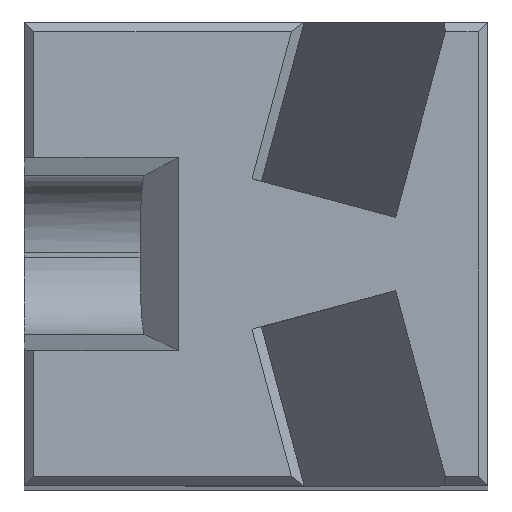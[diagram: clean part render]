
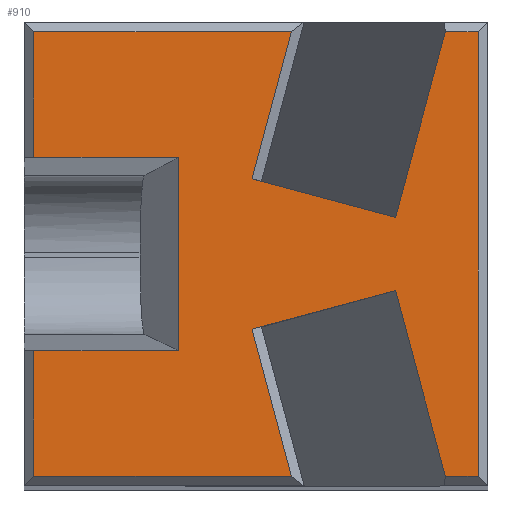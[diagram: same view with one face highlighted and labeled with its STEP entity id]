
A CAD part, top view. The second image highlights one B-rep face of the part: STEP entity #910.
In plain terms, the highlighted planar face has unit normal (0, 0, 1).
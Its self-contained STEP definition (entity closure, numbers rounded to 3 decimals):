
#12 = VECTOR ( 'NONE', #1151, 1000. ) ;
#20 = ORIENTED_EDGE ( 'NONE', *, *, #981, .T. ) ;
#30 = EDGE_CURVE ( 'NONE', #1072, #747, #997, .T. ) ;
#32 = CARTESIAN_POINT ( 'NONE',  ( 0.25, 0., 60. ) ) ;
#37 = DIRECTION ( 'NONE',  ( 0., 0., -1. ) ) ;
#39 = DIRECTION ( 'NONE',  ( 0., -1., 0. ) ) ;
#47 = CARTESIAN_POINT ( 'NONE',  ( 0., 0., 60. ) ) ;
#57 = DIRECTION ( 'NONE',  ( 0.966, 0.259, 0. ) ) ;
#58 = ORIENTED_EDGE ( 'NONE', *, *, #30, .F. ) ;
#81 = DIRECTION ( 'NONE',  ( -0.259, 0.966, 0. ) ) ;
#82 = VECTOR ( 'NONE', #785, 1000. ) ;
#87 = LINE ( 'NONE', #1162, #1116 ) ;
#106 = CARTESIAN_POINT ( 'NONE',  ( 11.75, 0., 60. ) ) ;
#114 = CARTESIAN_POINT ( 'NONE',  ( 0., 11.75, 60. ) ) ;
#116 = LINE ( 'NONE', #257, #646 ) ;
#123 = VECTOR ( 'NONE', #862, 1000. ) ;
#124 = DIRECTION ( 'NONE',  ( 0.259, 0.966, 0. ) ) ;
#128 = LINE ( 'NONE', #853, #819 ) ;
#133 = VERTEX_POINT ( 'NONE', #481 ) ;
#138 = DIRECTION ( 'NONE',  ( -1., 0., 0. ) ) ;
#145 = CARTESIAN_POINT ( 'NONE',  ( 5.898, 4.059, 60. ) ) ;
#163 = VECTOR ( 'NONE', #138, 1000. ) ;
#168 = DIRECTION ( 'NONE',  ( 0., 1., 0. ) ) ;
#177 = VERTEX_POINT ( 'NONE', #826 ) ;
#180 = DIRECTION ( 'NONE',  ( 0.259, -0.966, 0. ) ) ;
#181 = VERTEX_POINT ( 'NONE', #387 ) ;
#186 = LINE ( 'NONE', #429, #82 ) ;
#219 = VERTEX_POINT ( 'NONE', #741 ) ;
#226 = LINE ( 'NONE', #958, #441 ) ;
#228 = CARTESIAN_POINT ( 'NONE',  ( 0., 3.5, 60. ) ) ;
#237 = EDGE_CURVE ( 'NONE', #1175, #219, #948, .T. ) ;
#239 = DIRECTION ( 'NONE',  ( 1., 0., 0. ) ) ;
#248 = EDGE_LOOP ( 'NONE', ( #512, #994, #58, #821, #950, #548, #953, #1196, #1014, #660, #364, #20, #805, #836, #405, #361 ) ) ;
#257 = CARTESIAN_POINT ( 'NONE',  ( 5.898, 4.059, 60. ) ) ;
#266 = VERTEX_POINT ( 'NONE', #483 ) ;
#271 = CARTESIAN_POINT ( 'NONE',  ( 4., 8.5, 60. ) ) ;
#285 = CARTESIAN_POINT ( 'NONE',  ( 0.25, 0.25, 60. ) ) ;
#293 = VECTOR ( 'NONE', #57, 1000. ) ;
#318 = DIRECTION ( 'NONE',  ( -1., 0., 0. ) ) ;
#327 = PLANE ( 'NONE',  #985 ) ;
#332 = VECTOR ( 'NONE', #663, 1000. ) ;
#359 = EDGE_CURVE ( 'NONE', #965, #133, #716, .T. ) ;
#361 = ORIENTED_EDGE ( 'NONE', *, *, #863, .T. ) ;
#363 = CARTESIAN_POINT ( 'NONE',  ( 11.75, 0.25, 60. ) ) ;
#364 = ORIENTED_EDGE ( 'NONE', *, *, #237, .T. ) ;
#378 = LINE ( 'NONE', #604, #123 ) ;
#380 = EDGE_CURVE ( 'NONE', #747, #463, #186, .T. ) ;
#387 = CARTESIAN_POINT ( 'NONE',  ( 5.898, 7.941, 60. ) ) ;
#405 = ORIENTED_EDGE ( 'NONE', *, *, #793, .T. ) ;
#419 = CARTESIAN_POINT ( 'NONE',  ( 10.898, 0.25, 60. ) ) ;
#422 = CARTESIAN_POINT ( 'NONE',  ( 9.611, 6.946, 60. ) ) ;
#429 = CARTESIAN_POINT ( 'NONE',  ( 0., 8.5, 60. ) ) ;
#433 = VECTOR ( 'NONE', #1155, 1000. ) ;
#441 = VECTOR ( 'NONE', #39, 1000. ) ;
#442 = EDGE_CURVE ( 'NONE', #608, #458, #839, .T. ) ;
#458 = VERTEX_POINT ( 'NONE', #713 ) ;
#463 = VERTEX_POINT ( 'NONE', #1092 ) ;
#481 = CARTESIAN_POINT ( 'NONE',  ( 9.611, 5.054, 60. ) ) ;
#483 = CARTESIAN_POINT ( 'NONE',  ( 0.25, 11.75, 60. ) ) ;
#485 = EDGE_CURVE ( 'NONE', #1047, #760, #778, .T. ) ;
#512 = ORIENTED_EDGE ( 'NONE', *, *, #852, .T. ) ;
#514 = CARTESIAN_POINT ( 'NONE',  ( 4., 3.5, 60. ) ) ;
#544 = CARTESIAN_POINT ( 'NONE',  ( 9.611, 6.946, 60. ) ) ;
#548 = ORIENTED_EDGE ( 'NONE', *, *, #442, .T. ) ;
#561 = CARTESIAN_POINT ( 'NONE',  ( 0.25, 3.5, 60. ) ) ;
#566 = EDGE_CURVE ( 'NONE', #458, #965, #116, .T. ) ;
#604 = CARTESIAN_POINT ( 'NONE',  ( 9.611, 6.946, 60. ) ) ;
#608 = VERTEX_POINT ( 'NONE', #285 ) ;
#615 = CARTESIAN_POINT ( 'NONE',  ( 9.611, 5.054, 60. ) ) ;
#646 = VECTOR ( 'NONE', #81, 1000. ) ;
#660 = ORIENTED_EDGE ( 'NONE', *, *, #1038, .T. ) ;
#663 = DIRECTION ( 'NONE',  ( 0., 1., 0. ) ) ;
#689 = EDGE_CURVE ( 'NONE', #133, #983, #1126, .T. ) ;
#713 = CARTESIAN_POINT ( 'NONE',  ( 6.918, 0.25, 60. ) ) ;
#716 = LINE ( 'NONE', #615, #293 ) ;
#722 = DIRECTION ( 'NONE',  ( 0.259, 0.966, 0. ) ) ;
#741 = CARTESIAN_POINT ( 'NONE',  ( 11.75, 11.75, 60. ) ) ;
#743 = VECTOR ( 'NONE', #960, 1000. ) ;
#745 = CARTESIAN_POINT ( 'NONE',  ( 9.611, 5.054, 60. ) ) ;
#747 = VERTEX_POINT ( 'NONE', #1031 ) ;
#760 = VERTEX_POINT ( 'NONE', #1129 ) ;
#778 = LINE ( 'NONE', #544, #947 ) ;
#785 = DIRECTION ( 'NONE',  ( -1., 0., 0. ) ) ;
#793 = EDGE_CURVE ( 'NONE', #181, #177, #128, .T. ) ;
#805 = ORIENTED_EDGE ( 'NONE', *, *, #485, .F. ) ;
#819 = VECTOR ( 'NONE', #124, 1000. ) ;
#820 = FACE_OUTER_BOUND ( 'NONE', #248, .T. ) ;
#821 = ORIENTED_EDGE ( 'NONE', *, *, #1002, .F. ) ;
#824 = VECTOR ( 'NONE', #168, 1000. ) ;
#826 = CARTESIAN_POINT ( 'NONE',  ( 6.918, 11.75, 60. ) ) ;
#836 = ORIENTED_EDGE ( 'NONE', *, *, #1039, .F. ) ;
#839 = LINE ( 'NONE', #991, #1006 ) ;
#852 = EDGE_CURVE ( 'NONE', #266, #463, #226, .T. ) ;
#853 = CARTESIAN_POINT ( 'NONE',  ( 3.517, -0.942, 60. ) ) ;
#862 = DIRECTION ( 'NONE',  ( 0.966, -0.259, 0. ) ) ;
#863 = EDGE_CURVE ( 'NONE', #177, #266, #990, .T. ) ;
#887 = LINE ( 'NONE', #228, #433 ) ;
#910 = ADVANCED_FACE ( 'NONE', ( #820 ), #327, .F. ) ;
#929 = EDGE_CURVE ( 'NONE', #1188, #608, #992, .T. ) ;
#947 = VECTOR ( 'NONE', #722, 1000. ) ;
#948 = LINE ( 'NONE', #106, #332 ) ;
#950 = ORIENTED_EDGE ( 'NONE', *, *, #929, .T. ) ;
#953 = ORIENTED_EDGE ( 'NONE', *, *, #566, .T. ) ;
#958 = CARTESIAN_POINT ( 'NONE',  ( 0.25, 0., 60. ) ) ;
#960 = DIRECTION ( 'NONE',  ( 0., -1., 0. ) ) ;
#965 = VERTEX_POINT ( 'NONE', #145 ) ;
#977 = LINE ( 'NONE', #1165, #163 ) ;
#981 = EDGE_CURVE ( 'NONE', #219, #760, #977, .T. ) ;
#983 = VERTEX_POINT ( 'NONE', #419 ) ;
#985 = AXIS2_PLACEMENT_3D ( 'NONE', #47, #37, #318 ) ;
#990 = LINE ( 'NONE', #114, #12 ) ;
#991 = CARTESIAN_POINT ( 'NONE',  ( 0., 0.25, 60. ) ) ;
#992 = LINE ( 'NONE', #32, #743 ) ;
#994 = ORIENTED_EDGE ( 'NONE', *, *, #380, .F. ) ;
#997 = LINE ( 'NONE', #271, #824 ) ;
#1002 = EDGE_CURVE ( 'NONE', #1188, #1072, #887, .T. ) ;
#1006 = VECTOR ( 'NONE', #1007, 1000. ) ;
#1007 = DIRECTION ( 'NONE',  ( 1., 0., 0. ) ) ;
#1014 = ORIENTED_EDGE ( 'NONE', *, *, #689, .T. ) ;
#1031 = CARTESIAN_POINT ( 'NONE',  ( 4., 8.5, 60. ) ) ;
#1038 = EDGE_CURVE ( 'NONE', #983, #1175, #87, .T. ) ;
#1039 = EDGE_CURVE ( 'NONE', #181, #1047, #378, .T. ) ;
#1047 = VERTEX_POINT ( 'NONE', #422 ) ;
#1067 = VECTOR ( 'NONE', #180, 1000. ) ;
#1072 = VERTEX_POINT ( 'NONE', #514 ) ;
#1092 = CARTESIAN_POINT ( 'NONE',  ( 0.25, 8.5, 60. ) ) ;
#1116 = VECTOR ( 'NONE', #239, 1000. ) ;
#1126 = LINE ( 'NONE', #745, #1067 ) ;
#1129 = CARTESIAN_POINT ( 'NONE',  ( 10.898, 11.75, 60. ) ) ;
#1151 = DIRECTION ( 'NONE',  ( -1., 0., 0. ) ) ;
#1155 = DIRECTION ( 'NONE',  ( 1., 0., 0. ) ) ;
#1162 = CARTESIAN_POINT ( 'NONE',  ( 0., 0.25, 60. ) ) ;
#1165 = CARTESIAN_POINT ( 'NONE',  ( 0., 11.75, 60. ) ) ;
#1175 = VERTEX_POINT ( 'NONE', #363 ) ;
#1188 = VERTEX_POINT ( 'NONE', #561 ) ;
#1196 = ORIENTED_EDGE ( 'NONE', *, *, #359, .T. ) ;
